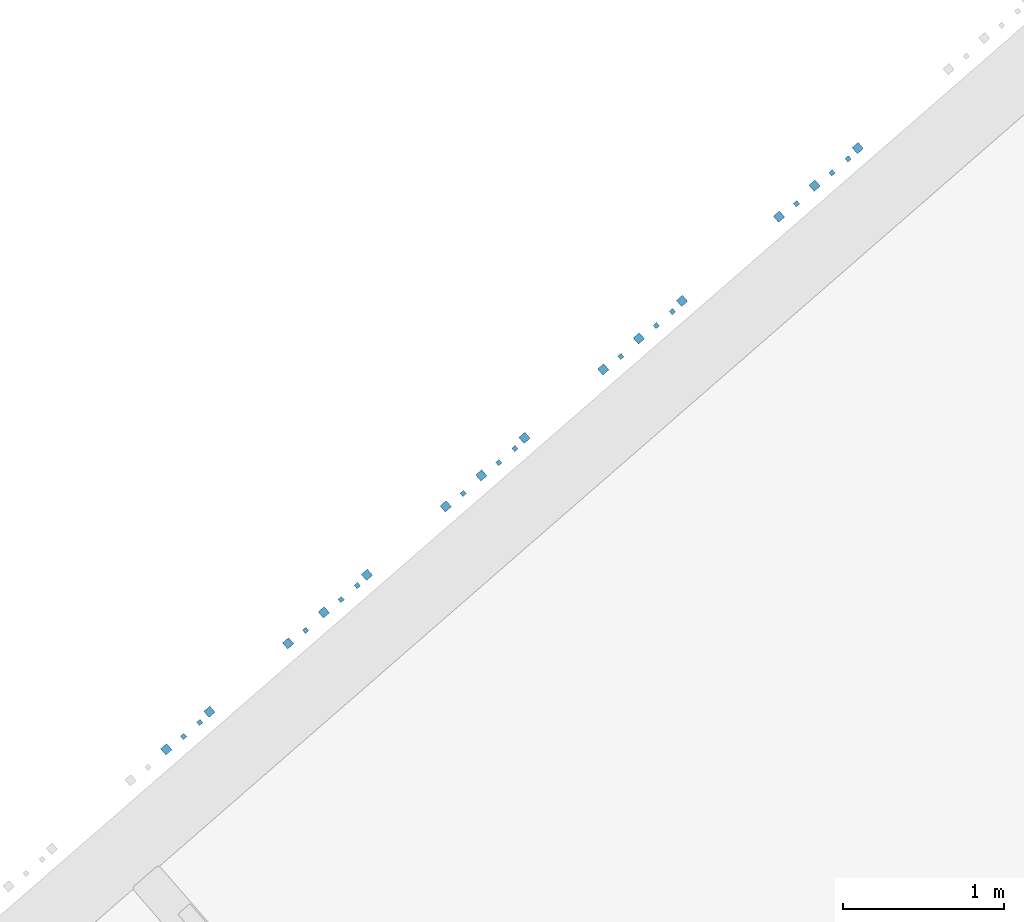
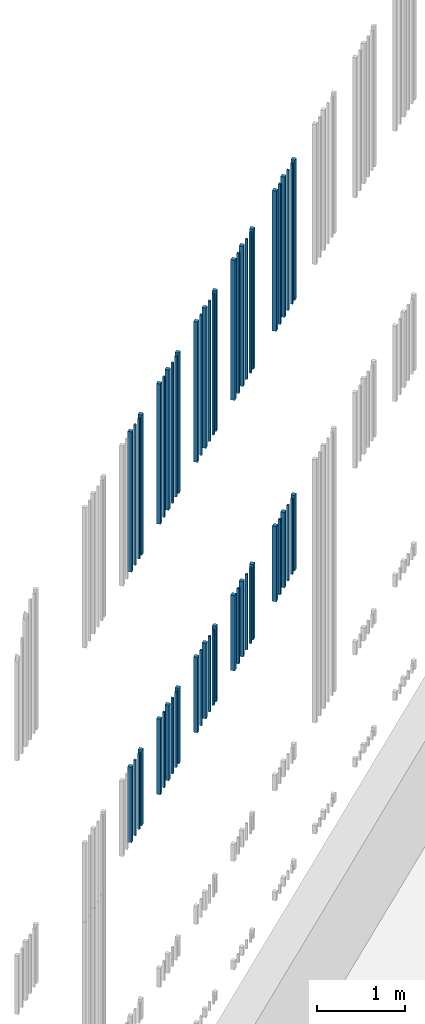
# One storey, part 47 of 124: 56 walls.
"""IFC2X3 building model written with IfcOpenShell, lengths in millimetres."""

from ifc_helpers import new_model, entity, si_unit, converted_unit, derived_unit, money_unit, direction, frame, origin_with_axes, place, context, subcontext, project, spatial, faceted_brep, material, type_object, element, save


model = new_model("IFC2X3")

# Units and contexts
model_context = context("Model", 3, precision=1e-05, world=origin_with_axes(), true_north=direction((0.0, 1.0)))
body_context = subcontext(model_context, "Body", "Model", "MODEL_VIEW")
ifc_project = project(units=[si_unit("LENGTHUNIT", "METRE", prefix="MILLI"), si_unit("AREAUNIT", "SQUARE_METRE"), si_unit("VOLUMEUNIT", "CUBIC_METRE"), converted_unit("PLANEANGLEUNIT", "DEGREE", entity("IfcPlaneAngleMeasure", 0.0174532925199), si_unit("PLANEANGLEUNIT", "RADIAN"), dimensions=[0, 0, 0, 0, 0, 0, 0]), si_unit("SOLIDANGLEUNIT", "STERADIAN"), money_unit("EUR"), converted_unit("TIMEUNIT", "Year", entity("IfcTimeMeasure", 31556926.0), si_unit("TIMEUNIT", "SECOND"), dimensions=[0, 0, 1, 0, 0, 0, 0]), si_unit("MASSUNIT", "GRAM", prefix="KILO"), si_unit("THERMODYNAMICTEMPERATUREUNIT", "DEGREE_CELSIUS"), si_unit("LUMINOUSINTENSITYUNIT", "LUMEN"), si_unit("ENERGYUNIT", "JOULE", prefix="MEGA"), derived_unit("THERMALCONDUCTANCEUNIT", [(si_unit("POWERUNIT", "WATT"), 1), (si_unit("LENGTHUNIT", "METRE"), -1), (si_unit("THERMODYNAMICTEMPERATUREUNIT", "KELVIN"), -1)]), derived_unit("SPECIFICHEATCAPACITYUNIT", [(si_unit("ENERGYUNIT", "JOULE"), 1), (si_unit("MASSUNIT", "GRAM", prefix="KILO"), -1), (si_unit("THERMODYNAMICTEMPERATUREUNIT", "KELVIN"), -1)]), derived_unit("MASSDENSITYUNIT", [(si_unit("MASSUNIT", "GRAM", prefix="KILO"), 1), (si_unit("VOLUMEUNIT", "CUBIC_METRE"), -1)])], contexts=[model_context])

# Site, building, storey
site_placement = place(None, origin_with_axes())
site = spatial("IfcSite", under=ifc_project, at=site_placement, Name="Site", CompositionType="ELEMENT")
building_placement = place(site_placement, origin_with_axes())
building = spatial("IfcBuilding", under=site, at=building_placement, Name="Building", CompositionType="ELEMENT")
storey_placement = place(building_placement, frame((0.0, 0.0, -1615.0), z_axis=(0.0, 0.0, 1.0), x_axis=(1.0, 0.0, 0.0)))
storey = spatial("IfcBuildingStorey", under=building, at=storey_placement, Name="0  korrus", CompositionType="ELEMENT", Elevation=-1615.0)

# Walls
ifc_material = material(Name="Site specified")
wall_type = type_object("IfcWallType", Name="Puitfassaadi ribistik", PredefinedType="NOTDEFINED")
for number, where, z_axis, x_axis, name in (
    (1, (139597.650489, 91372.2268439, 9530.0), (0.0, 0.0, 1.0), (0.754709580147, 0.656059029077, 0.0), "Site specified"),
    (2, (139919.156747, 91651.7079708, 9530.0), (0.0, 0.0, 1.0), (0.754709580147, 0.656059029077, 0.0), "Site specified"),
    (3, (139818.780374, 91564.4521205, 9530.0), (0.0, 0.0, 1.0), (0.754709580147, 0.656059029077, 0.0), "Site specified"),
):
    element("IfcWall", number, at=place(storey_placement, frame(where, z_axis=z_axis, x_axis=x_axis)), inside=storey, type_object=wall_type, material=ifc_material, Name=name, context=body_context, shape_type="Brep", body=[
        faceted_brep([(14.0, 14.0, 1950.0), (14.0, 14.0, 0.0), (-14.0, 14.0, 0.0), (-14.0, 14.0, 1950.0), (14.0, -14.0, 1950.0), (14.0, -14.0, 0.0), (-14.0, -14.0, 0.0), (-14.0, -14.0, 1950.0)], [[[0, 1, 2, 3]], [[4, 5, 1, 0]], [[2, 1, 5, 6]], [[3, 2, 6, 7]], [[4, 0, 3, 7]], [[7, 6, 5, 4]]]),
    ])
for number, where, z_axis, x_axis, name in (
    (4, (139979.111643, 91718.4011098, 9530.0), (0.0, 0.0, 1.0), (0.754709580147, 0.656059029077, 0.0), "Site specified"),
    (5, (139710.430781, 91484.8403996, 9530.0), (0.0, 0.0, 1.0), (0.754709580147, 0.656059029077, 0.0), "Site specified"),
):
    element("IfcWall", number, at=place(storey_placement, frame(where, z_axis=z_axis, x_axis=x_axis)), inside=storey, type_object=wall_type, material=ifc_material, Name=name, context=body_context, shape_type="Brep", body=[
        faceted_brep([(25.0, 25.0, 1950.0), (25.0, 25.0, 0.0), (-25.0, 25.0, 0.0), (-25.0, 25.0, 1950.0), (25.0, -25.0, 1950.0), (25.0, -25.0, 0.0), (-25.0, -25.0, 0.0), (-25.0, -25.0, 1950.0)], [[[0, 1, 2, 3]], [[4, 5, 1, 0]], [[2, 1, 5, 6]], [[3, 2, 6, 7]], [[4, 0, 3, 7]], [[7, 6, 5, 4]]]),
    ])
wall_1_placement = place(storey_placement, frame((138837.657922, 90711.5753852, 5771.0), z_axis=(0.0, 0.0, 1.0), x_axis=(0.754709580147, 0.656059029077, 0.0)))
element("IfcWall", 6, at=wall_1_placement, inside=storey, type_object=wall_type, material=ifc_material, Name="Site specified", context=body_context, shape_type="Brep", body=[
    faceted_brep([(14.0, 14.0, 1050.0), (14.0, 14.0, 0.0), (-14.0, 14.0, 0.0), (-14.0, 14.0, 1050.0), (14.0, -14.0, 1050.0), (14.0, -14.0, 0.0), (-14.0, -14.0, 0.0), (-14.0, -14.0, 1050.0)], [[[0, 1, 2, 3]], [[4, 5, 1, 0]], [[2, 1, 5, 6]], [[3, 2, 6, 7]], [[4, 0, 3, 7]], [[7, 6, 5, 4]]]),
])
for number, where, z_axis, x_axis, name in (
    (7, (138997.989192, 90865.5243744, 5771.0), (0.0, 0.0, 1.0), (0.754709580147, 0.656059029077, 0.0), "Site specified"),
    (8, (138729.30833, 90631.9636643, 5771.0), (0.0, 0.0, 1.0), (0.754709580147, 0.656059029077, 0.0), "Site specified"),
):
    element("IfcWall", number, at=place(storey_placement, frame(where, z_axis=z_axis, x_axis=x_axis)), inside=storey, type_object=wall_type, material=ifc_material, Name=name, context=body_context, shape_type="Brep", body=[
        faceted_brep([(25.0, 25.0, 1050.0), (25.0, 25.0, 0.0), (-25.0, 25.0, 0.0), (-25.0, 25.0, 1050.0), (25.0, -25.0, 1050.0), (25.0, -25.0, 0.0), (-25.0, -25.0, 0.0), (-25.0, -25.0, 1050.0)], [[[0, 1, 2, 3]], [[4, 5, 1, 0]], [[2, 1, 5, 6]], [[3, 2, 6, 7]], [[4, 0, 3, 7]], [[7, 6, 5, 4]]]),
    ])
for number, where, z_axis, x_axis, name in (
    (9, (138938.034296, 90798.8312355, 5771.0), (0.0, 0.0, 1.0), (0.754709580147, 0.656059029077, 0.0), "Site specified"),
    (10, (139818.780374, 91564.4521205, 5771.0), (0.0, 0.0, 1.0), (0.754709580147, 0.656059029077, 0.0), "Site specified"),
):
    element("IfcWall", number, at=place(storey_placement, frame(where, z_axis=z_axis, x_axis=x_axis)), inside=storey, type_object=wall_type, material=ifc_material, Name=name, context=body_context, shape_type="Brep", body=[
        faceted_brep([(14.0, 14.0, 1050.0), (14.0, 14.0, 0.0), (-14.0, 14.0, 0.0), (-14.0, 14.0, 1050.0), (14.0, -14.0, 1050.0), (14.0, -14.0, 0.0), (-14.0, -14.0, 0.0), (-14.0, -14.0, 1050.0)], [[[0, 1, 2, 3]], [[4, 5, 1, 0]], [[2, 1, 5, 6]], [[3, 2, 6, 7]], [[4, 0, 3, 7]], [[7, 6, 5, 4]]]),
    ])
for number, where, z_axis, x_axis, name in (
    (11, (138729.30833, 90631.9636643, 9530.0), (0.0, 0.0, 1.0), (0.754709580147, 0.656059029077, 0.0), "Site specified"),
    (12, (139488.546166, 91291.9590465, 9530.0), (0.0, 0.0, 1.0), (0.754709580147, 0.656059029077, 0.0), "Site specified"),
):
    element("IfcWall", number, at=place(storey_placement, frame(where, z_axis=z_axis, x_axis=x_axis)), inside=storey, type_object=wall_type, material=ifc_material, Name=name, context=body_context, shape_type="Brep", body=[
        faceted_brep([(25.0, 25.0, 1950.0), (25.0, 25.0, 0.0), (-25.0, 25.0, 0.0), (-25.0, 25.0, 1950.0), (25.0, -25.0, 1950.0), (25.0, -25.0, 0.0), (-25.0, -25.0, 0.0), (-25.0, -25.0, 1950.0)], [[[0, 1, 2, 3]], [[4, 5, 1, 0]], [[2, 1, 5, 6]], [[3, 2, 6, 7]], [[4, 0, 3, 7]], [[7, 6, 5, 4]]]),
    ])
for number, where, z_axis, x_axis, name in (
    (13, (139979.111643, 91718.4011098, 5771.0), (0.0, 0.0, 1.0), (0.754709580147, 0.656059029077, 0.0), "Site specified"),
    (14, (139488.546166, 91291.9590465, 5771.0), (0.0, 0.0, 1.0), (0.754709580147, 0.656059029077, 0.0), "Site specified"),
):
    element("IfcWall", number, at=place(storey_placement, frame(where, z_axis=z_axis, x_axis=x_axis)), inside=storey, type_object=wall_type, material=ifc_material, Name=name, context=body_context, shape_type="Brep", body=[
        faceted_brep([(25.0, 25.0, 1050.0), (25.0, 25.0, 0.0), (-25.0, 25.0, 0.0), (-25.0, 25.0, 1050.0), (25.0, -25.0, 1050.0), (25.0, -25.0, 0.0), (-25.0, -25.0, 0.0), (-25.0, -25.0, 1050.0)], [[[0, 1, 2, 3]], [[4, 5, 1, 0]], [[2, 1, 5, 6]], [[3, 2, 6, 7]], [[4, 0, 3, 7]], [[7, 6, 5, 4]]]),
    ])
wall_2_placement = place(storey_placement, frame((139597.650489, 91372.2268439, 5771.0), z_axis=(0.0, 0.0, 1.0), x_axis=(0.754709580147, 0.656059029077, 0.0)))
element("IfcWall", 15, at=wall_2_placement, inside=storey, type_object=wall_type, material=ifc_material, Name="Site specified", context=body_context, shape_type="Brep", body=[
    faceted_brep([(14.0, 14.0, 1050.0), (14.0, 14.0, 0.0), (-14.0, 14.0, 0.0), (-14.0, 14.0, 1050.0), (14.0, -14.0, 1050.0), (14.0, -14.0, 0.0), (-14.0, -14.0, 0.0), (-14.0, -14.0, 1050.0)], [[[0, 1, 2, 3]], [[4, 5, 1, 0]], [[2, 1, 5, 6]], [[3, 2, 6, 7]], [[4, 0, 3, 7]], [[7, 6, 5, 4]]]),
])
wall_3_placement = place(storey_placement, frame((138997.989192, 90865.5243744, 9530.0), z_axis=(0.0, 0.0, 1.0), x_axis=(0.754709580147, 0.656059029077, 0.0)))
element("IfcWall", 16, at=wall_3_placement, inside=storey, type_object=wall_type, material=ifc_material, Name="Site specified", context=body_context, shape_type="Brep", body=[
    faceted_brep([(25.0, 25.0, 1950.0), (25.0, 25.0, 0.0), (-25.0, 25.0, 0.0), (-25.0, 25.0, 1950.0), (25.0, -25.0, 1950.0), (25.0, -25.0, 0.0), (-25.0, -25.0, 0.0), (-25.0, -25.0, 1950.0)], [[[0, 1, 2, 3]], [[4, 5, 1, 0]], [[2, 1, 5, 6]], [[3, 2, 6, 7]], [[4, 0, 3, 7]], [[7, 6, 5, 4]]]),
])
for number, where, z_axis, x_axis, name in (
    (17, (138938.034296, 90798.8312355, 9530.0), (0.0, 0.0, 1.0), (0.754709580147, 0.656059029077, 0.0), "Site specified"),
    (18, (138837.657922, 90711.5753852, 9530.0), (0.0, 0.0, 1.0), (0.754709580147, 0.656059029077, 0.0), "Site specified"),
):
    element("IfcWall", number, at=place(storey_placement, frame(where, z_axis=z_axis, x_axis=x_axis)), inside=storey, type_object=wall_type, material=ifc_material, Name=name, context=body_context, shape_type="Brep", body=[
        faceted_brep([(14.0, 14.0, 1950.0), (14.0, 14.0, 0.0), (-14.0, 14.0, 0.0), (-14.0, 14.0, 1950.0), (14.0, -14.0, 1950.0), (14.0, -14.0, 0.0), (-14.0, -14.0, 0.0), (-14.0, -14.0, 1950.0)], [[[0, 1, 2, 3]], [[4, 5, 1, 0]], [[2, 1, 5, 6]], [[3, 2, 6, 7]], [[4, 0, 3, 7]], [[7, 6, 5, 4]]]),
    ])
wall_4_placement = place(storey_placement, frame((140900.279204, 92504.5847111, 5771.0), z_axis=(0.0, 0.0, 1.0), x_axis=(0.754709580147, 0.656059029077, 0.0)))
element("IfcWall", 19, at=wall_4_placement, inside=storey, type_object=wall_type, material=ifc_material, Name="Site specified", context=body_context, shape_type="Brep", body=[
    faceted_brep([(14.0, 14.0, 1050.0), (14.0, 14.0, 0.0), (-14.0, 14.0, 0.0), (-14.0, 14.0, 1050.0), (14.0, -14.0, 1050.0), (14.0, -14.0, 0.0), (-14.0, -14.0, 0.0), (-14.0, -14.0, 1050.0)], [[[0, 1, 2, 3]], [[4, 5, 1, 0]], [[2, 1, 5, 6]], [[3, 2, 6, 7]], [[4, 0, 3, 7]], [[7, 6, 5, 4]]]),
])
wall_5_placement = place(storey_placement, frame((140469.668623, 92144.8357868, 5771.0), z_axis=(0.0, 0.0, 1.0), x_axis=(0.754709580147, 0.656059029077, 0.0)))
element("IfcWall", 20, at=wall_5_placement, inside=storey, type_object=wall_type, material=ifc_material, Name="Site specified", context=body_context, shape_type="Brep", body=[
    faceted_brep([(25.0, 25.0, 1050.0), (25.0, 25.0, 0.0), (-25.0, 25.0, 0.0), (-25.0, 25.0, 1050.0), (25.0, -25.0, 1050.0), (25.0, -25.0, 0.0), (-25.0, -25.0, 0.0), (-25.0, -25.0, 1050.0)], [[[0, 1, 2, 3]], [[4, 5, 1, 0]], [[2, 1, 5, 6]], [[3, 2, 6, 7]], [[4, 0, 3, 7]], [[7, 6, 5, 4]]]),
])
for number, where, z_axis, x_axis, name in (
    (21, (140578.772946, 92225.1035843, 5771.0), (0.0, 0.0, 1.0), (0.754709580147, 0.656059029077, 0.0), "Site specified"),
    (22, (139919.156747, 91651.7079708, 5771.0), (0.0, 0.0, 1.0), (0.754709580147, 0.656059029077, 0.0), "Site specified"),
):
    element("IfcWall", number, at=place(storey_placement, frame(where, z_axis=z_axis, x_axis=x_axis)), inside=storey, type_object=wall_type, material=ifc_material, Name=name, context=body_context, shape_type="Brep", body=[
        faceted_brep([(14.0, 14.0, 1050.0), (14.0, 14.0, 0.0), (-14.0, 14.0, 0.0), (-14.0, 14.0, 1050.0), (14.0, -14.0, 1050.0), (14.0, -14.0, 0.0), (-14.0, -14.0, 0.0), (-14.0, -14.0, 1050.0)], [[[0, 1, 2, 3]], [[4, 5, 1, 0]], [[2, 1, 5, 6]], [[3, 2, 6, 7]], [[4, 0, 3, 7]], [[7, 6, 5, 4]]]),
    ])
wall_6_placement = place(storey_placement, frame((139710.430781, 91484.8403996, 5771.0), z_axis=(0.0, 0.0, 1.0), x_axis=(0.754709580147, 0.656059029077, 0.0)))
element("IfcWall", 23, at=wall_6_placement, inside=storey, type_object=wall_type, material=ifc_material, Name="Site specified", context=body_context, shape_type="Brep", body=[
    faceted_brep([(25.0, 25.0, 1050.0), (25.0, 25.0, 0.0), (-25.0, 25.0, 0.0), (-25.0, 25.0, 1050.0), (25.0, -25.0, 1050.0), (25.0, -25.0, 0.0), (-25.0, -25.0, 0.0), (-25.0, -25.0, 1050.0)], [[[0, 1, 2, 3]], [[4, 5, 1, 0]], [[2, 1, 5, 6]], [[3, 2, 6, 7]], [[4, 0, 3, 7]], [[7, 6, 5, 4]]]),
])
wall_7_placement = place(storey_placement, frame((140799.902831, 92417.3288608, 5771.0), z_axis=(0.0, 0.0, 1.0), x_axis=(0.754709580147, 0.656059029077, 0.0)))
element("IfcWall", 24, at=wall_7_placement, inside=storey, type_object=wall_type, material=ifc_material, Name="Site specified", context=body_context, shape_type="Brep", body=[
    faceted_brep([(14.0, 14.0, 1050.0), (14.0, 14.0, 0.0), (-14.0, 14.0, 0.0), (-14.0, 14.0, 1050.0), (14.0, -14.0, 1050.0), (14.0, -14.0, 0.0), (-14.0, -14.0, 0.0), (-14.0, -14.0, 1050.0)], [[[0, 1, 2, 3]], [[4, 5, 1, 0]], [[2, 1, 5, 6]], [[3, 2, 6, 7]], [[4, 0, 3, 7]], [[7, 6, 5, 4]]]),
])
for number, where, z_axis, x_axis, name in (
    (25, (140960.2341, 92571.2778501, 5771.0), (0.0, 0.0, 1.0), (0.754709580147, 0.656059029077, 0.0), "Site specified"),
    (26, (140691.553238, 92337.7171399, 5771.0), (0.0, 0.0, 1.0), (0.754709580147, 0.656059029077, 0.0), "Site specified"),
):
    element("IfcWall", number, at=place(storey_placement, frame(where, z_axis=z_axis, x_axis=x_axis)), inside=storey, type_object=wall_type, material=ifc_material, Name=name, context=body_context, shape_type="Brep", body=[
        faceted_brep([(25.0, 25.0, 1050.0), (25.0, 25.0, 0.0), (-25.0, 25.0, 0.0), (-25.0, 25.0, 1050.0), (25.0, -25.0, 1050.0), (25.0, -25.0, 0.0), (-25.0, -25.0, 0.0), (-25.0, -25.0, 1050.0)], [[[0, 1, 2, 3]], [[4, 5, 1, 0]], [[2, 1, 5, 6]], [[3, 2, 6, 7]], [[4, 0, 3, 7]], [[7, 6, 5, 4]]]),
    ])
wall_8_placement = place(storey_placement, frame((140469.668623, 92144.8357868, 9530.0), z_axis=(0.0, 0.0, 1.0), x_axis=(0.754709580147, 0.656059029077, 0.0)))
element("IfcWall", 27, at=wall_8_placement, inside=storey, type_object=wall_type, material=ifc_material, Name="Site specified", context=body_context, shape_type="Brep", body=[
    faceted_brep([(25.0, 25.0, 1950.0), (25.0, 25.0, 0.0), (-25.0, 25.0, 0.0), (-25.0, 25.0, 1950.0), (25.0, -25.0, 1950.0), (25.0, -25.0, 0.0), (-25.0, -25.0, 0.0), (-25.0, -25.0, 1950.0)], [[[0, 1, 2, 3]], [[4, 5, 1, 0]], [[2, 1, 5, 6]], [[3, 2, 6, 7]], [[4, 0, 3, 7]], [[7, 6, 5, 4]]]),
])
for number, where, z_axis, x_axis, name in (
    (28, (140578.772946, 92225.1035843, 9530.0), (0.0, 0.0, 1.0), (0.754709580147, 0.656059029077, 0.0), "Site specified"),
    (29, (140900.279204, 92504.5847111, 9530.0), (0.0, 0.0, 1.0), (0.754709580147, 0.656059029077, 0.0), "Site specified"),
    (30, (140799.902831, 92417.3288608, 9530.0), (0.0, 0.0, 1.0), (0.754709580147, 0.656059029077, 0.0), "Site specified"),
):
    element("IfcWall", number, at=place(storey_placement, frame(where, z_axis=z_axis, x_axis=x_axis)), inside=storey, type_object=wall_type, material=ifc_material, Name=name, context=body_context, shape_type="Brep", body=[
        faceted_brep([(14.0, 14.0, 1950.0), (14.0, 14.0, 0.0), (-14.0, 14.0, 0.0), (-14.0, 14.0, 1950.0), (14.0, -14.0, 1950.0), (14.0, -14.0, 0.0), (-14.0, -14.0, 0.0), (-14.0, -14.0, 1950.0)], [[[0, 1, 2, 3]], [[4, 5, 1, 0]], [[2, 1, 5, 6]], [[3, 2, 6, 7]], [[4, 0, 3, 7]], [[7, 6, 5, 4]]]),
    ])
for number, where, z_axis, x_axis, name in (
    (31, (140960.2341, 92571.2778501, 9530.0), (0.0, 0.0, 1.0), (0.754709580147, 0.656059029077, 0.0), "Site specified"),
    (32, (140691.553238, 92337.7171399, 9530.0), (0.0, 0.0, 1.0), (0.754709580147, 0.656059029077, 0.0), "Site specified"),
):
    element("IfcWall", number, at=place(storey_placement, frame(where, z_axis=z_axis, x_axis=x_axis)), inside=storey, type_object=wall_type, material=ifc_material, Name=name, context=body_context, shape_type="Brep", body=[
        faceted_brep([(25.0, 25.0, 1950.0), (25.0, 25.0, 0.0), (-25.0, 25.0, 0.0), (-25.0, 25.0, 1950.0), (25.0, -25.0, 1950.0), (25.0, -25.0, 0.0), (-25.0, -25.0, 0.0), (-25.0, -25.0, 1950.0)], [[[0, 1, 2, 3]], [[4, 5, 1, 0]], [[2, 1, 5, 6]], [[3, 2, 6, 7]], [[4, 0, 3, 7]], [[7, 6, 5, 4]]]),
    ])
wall_9_placement = place(storey_placement, frame((141781.02504, 93270.2053854, 5771.0), z_axis=(0.0, 0.0, 1.0), x_axis=(0.754709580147, 0.656059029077, 0.0)))
element("IfcWall", 33, at=wall_9_placement, inside=storey, type_object=wall_type, material=ifc_material, Name="Site specified", context=body_context, shape_type="Brep", body=[
    faceted_brep([(14.0, 14.0, 1050.0), (14.0, 14.0, 0.0), (-14.0, 14.0, 0.0), (-14.0, 14.0, 1050.0), (14.0, -14.0, 1050.0), (14.0, -14.0, 0.0), (-14.0, -14.0, 0.0), (-14.0, -14.0, 1050.0)], [[[0, 1, 2, 3]], [[4, 5, 1, 0]], [[2, 1, 5, 6]], [[3, 2, 6, 7]], [[4, 0, 3, 7]], [[7, 6, 5, 4]]]),
])
wall_10_placement = place(storey_placement, frame((141450.790832, 92997.7123114, 5771.0), z_axis=(0.0, 0.0, 1.0), x_axis=(0.754709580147, 0.656059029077, 0.0)))
element("IfcWall", 34, at=wall_10_placement, inside=storey, type_object=wall_type, material=ifc_material, Name="Site specified", context=body_context, shape_type="Brep", body=[
    faceted_brep([(25.0, 25.0, 1050.0), (25.0, 25.0, 0.0), (-25.0, 25.0, 0.0), (-25.0, 25.0, 1050.0), (25.0, -25.0, 1050.0), (25.0, -25.0, 0.0), (-25.0, -25.0, 0.0), (-25.0, -25.0, 1050.0)], [[[0, 1, 2, 3]], [[4, 5, 1, 0]], [[2, 1, 5, 6]], [[3, 2, 6, 7]], [[4, 0, 3, 7]], [[7, 6, 5, 4]]]),
])
for number, where, z_axis, x_axis, name in (
    (35, (141559.895155, 93077.9801088, 5771.0), (0.0, 0.0, 1.0), (0.754709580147, 0.656059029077, 0.0), "Site specified"),
    (36, (141881.401413, 93357.4612357, 5771.0), (0.0, 0.0, 1.0), (0.754709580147, 0.656059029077, 0.0), "Site specified"),
):
    element("IfcWall", number, at=place(storey_placement, frame(where, z_axis=z_axis, x_axis=x_axis)), inside=storey, type_object=wall_type, material=ifc_material, Name=name, context=body_context, shape_type="Brep", body=[
        faceted_brep([(14.0, 14.0, 1050.0), (14.0, 14.0, 0.0), (-14.0, 14.0, 0.0), (-14.0, 14.0, 1050.0), (14.0, -14.0, 1050.0), (14.0, -14.0, 0.0), (-14.0, -14.0, 0.0), (-14.0, -14.0, 1050.0)], [[[0, 1, 2, 3]], [[4, 5, 1, 0]], [[2, 1, 5, 6]], [[3, 2, 6, 7]], [[4, 0, 3, 7]], [[7, 6, 5, 4]]]),
    ])
wall_11_placement = place(storey_placement, frame((141941.356309, 93424.1543746, 5771.0), z_axis=(0.0, 0.0, 1.0), x_axis=(0.754709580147, 0.656059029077, 0.0)))
element("IfcWall", 37, at=wall_11_placement, inside=storey, type_object=wall_type, material=ifc_material, Name="Site specified", context=body_context, shape_type="Brep", body=[
    faceted_brep([(25.0, 25.0, 1050.0), (25.0, 25.0, 0.0), (-25.0, 25.0, 0.0), (-25.0, 25.0, 1050.0), (25.0, -25.0, 1050.0), (25.0, -25.0, 0.0), (-25.0, -25.0, 0.0), (-25.0, -25.0, 1050.0)], [[[0, 1, 2, 3]], [[4, 5, 1, 0]], [[2, 1, 5, 6]], [[3, 2, 6, 7]], [[4, 0, 3, 7]], [[7, 6, 5, 4]]]),
])
wall_12_placement = place(storey_placement, frame((141941.356309, 93424.1543746, 9530.0), z_axis=(0.0, 0.0, 1.0), x_axis=(0.754709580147, 0.656059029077, 0.0)))
element("IfcWall", 38, at=wall_12_placement, inside=storey, type_object=wall_type, material=ifc_material, Name="Site specified", context=body_context, shape_type="Brep", body=[
    faceted_brep([(25.0, 25.0, 1950.0), (25.0, 25.0, 0.0), (-25.0, 25.0, 0.0), (-25.0, 25.0, 1950.0), (25.0, -25.0, 1950.0), (25.0, -25.0, 0.0), (-25.0, -25.0, 0.0), (-25.0, -25.0, 1950.0)], [[[0, 1, 2, 3]], [[4, 5, 1, 0]], [[2, 1, 5, 6]], [[3, 2, 6, 7]], [[4, 0, 3, 7]], [[7, 6, 5, 4]]]),
])
wall_13_placement = place(storey_placement, frame((141672.675447, 93190.5936645, 5771.0), z_axis=(0.0, 0.0, 1.0), x_axis=(0.754709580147, 0.656059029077, 0.0)))
element("IfcWall", 39, at=wall_13_placement, inside=storey, type_object=wall_type, material=ifc_material, Name="Site specified", context=body_context, shape_type="Brep", body=[
    faceted_brep([(25.0, 25.0, 1050.0), (25.0, 25.0, 0.0), (-25.0, 25.0, 0.0), (-25.0, 25.0, 1050.0), (25.0, -25.0, 1050.0), (25.0, -25.0, 0.0), (-25.0, -25.0, 0.0), (-25.0, -25.0, 1050.0)], [[[0, 1, 2, 3]], [[4, 5, 1, 0]], [[2, 1, 5, 6]], [[3, 2, 6, 7]], [[4, 0, 3, 7]], [[7, 6, 5, 4]]]),
])
wall_14_placement = place(storey_placement, frame((141450.790832, 92997.7123114, 9530.0), z_axis=(0.0, 0.0, 1.0), x_axis=(0.754709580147, 0.656059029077, 0.0)))
element("IfcWall", 40, at=wall_14_placement, inside=storey, type_object=wall_type, material=ifc_material, Name="Site specified", context=body_context, shape_type="Brep", body=[
    faceted_brep([(25.0, 25.0, 1950.0), (25.0, 25.0, 0.0), (-25.0, 25.0, 0.0), (-25.0, 25.0, 1950.0), (25.0, -25.0, 1950.0), (25.0, -25.0, 0.0), (-25.0, -25.0, 0.0), (-25.0, -25.0, 1950.0)], [[[0, 1, 2, 3]], [[4, 5, 1, 0]], [[2, 1, 5, 6]], [[3, 2, 6, 7]], [[4, 0, 3, 7]], [[7, 6, 5, 4]]]),
])
for number, where, z_axis, x_axis, name in (
    (41, (141559.895155, 93077.9801088, 9530.0), (0.0, 0.0, 1.0), (0.754709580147, 0.656059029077, 0.0), "Site specified"),
    (42, (141881.401413, 93357.4612357, 9530.0), (0.0, 0.0, 1.0), (0.754709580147, 0.656059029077, 0.0), "Site specified"),
    (43, (141781.02504, 93270.2053854, 9530.0), (0.0, 0.0, 1.0), (0.754709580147, 0.656059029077, 0.0), "Site specified"),
):
    element("IfcWall", number, at=place(storey_placement, frame(where, z_axis=z_axis, x_axis=x_axis)), inside=storey, type_object=wall_type, material=ifc_material, Name=name, context=body_context, shape_type="Brep", body=[
        faceted_brep([(14.0, 14.0, 1950.0), (14.0, 14.0, 0.0), (-14.0, 14.0, 0.0), (-14.0, 14.0, 1950.0), (14.0, -14.0, 1950.0), (14.0, -14.0, 0.0), (-14.0, -14.0, 0.0), (-14.0, -14.0, 1950.0)], [[[0, 1, 2, 3]], [[4, 5, 1, 0]], [[2, 1, 5, 6]], [[3, 2, 6, 7]], [[4, 0, 3, 7]], [[7, 6, 5, 4]]]),
    ])
wall_15_placement = place(storey_placement, frame((141672.675447, 93190.5936645, 9530.0), z_axis=(0.0, 0.0, 1.0), x_axis=(0.754709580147, 0.656059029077, 0.0)))
element("IfcWall", 44, at=wall_15_placement, inside=storey, type_object=wall_type, material=ifc_material, Name="Site specified", context=body_context, shape_type="Brep", body=[
    faceted_brep([(25.0, 25.0, 1950.0), (25.0, 25.0, 0.0), (-25.0, 25.0, 0.0), (-25.0, 25.0, 1950.0), (25.0, -25.0, 1950.0), (25.0, -25.0, 0.0), (-25.0, -25.0, 0.0), (-25.0, -25.0, 1950.0)], [[[0, 1, 2, 3]], [[4, 5, 1, 0]], [[2, 1, 5, 6]], [[3, 2, 6, 7]], [[4, 0, 3, 7]], [[7, 6, 5, 4]]]),
])
wall_16_placement = place(storey_placement, frame((142545.119969, 93948.9981168, 5771.0), z_axis=(0.0, 0.0, 1.0), x_axis=(0.754709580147, 0.656059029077, 0.0)))
element("IfcWall", 45, at=wall_16_placement, inside=storey, type_object=wall_type, material=ifc_material, Name="Site specified", context=body_context, shape_type="Brep", body=[
    faceted_brep([(25.0, 25.0, 1050.0), (25.0, 25.0, 0.0), (-25.0, 25.0, 0.0), (-25.0, 25.0, 1050.0), (25.0, -25.0, 1050.0), (25.0, -25.0, 0.0), (-25.0, -25.0, 0.0), (-25.0, -25.0, 1050.0)], [[[0, 1, 2, 3]], [[4, 5, 1, 0]], [[2, 1, 5, 6]], [[3, 2, 6, 7]], [[4, 0, 3, 7]], [[7, 6, 5, 4]]]),
])
wall_17_placement = place(storey_placement, frame((142654.224291, 94029.2659142, 5771.0), z_axis=(0.0, 0.0, 1.0), x_axis=(0.754709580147, 0.656059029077, 0.0)))
element("IfcWall", 46, at=wall_17_placement, inside=storey, type_object=wall_type, material=ifc_material, Name="Site specified", context=body_context, shape_type="Brep", body=[
    faceted_brep([(14.0, 14.0, 1050.0), (14.0, 14.0, 0.0), (-14.0, 14.0, 0.0), (-14.0, 14.0, 1050.0), (14.0, -14.0, 1050.0), (14.0, -14.0, 0.0), (-14.0, -14.0, 0.0), (-14.0, -14.0, 1050.0)], [[[0, 1, 2, 3]], [[4, 5, 1, 0]], [[2, 1, 5, 6]], [[3, 2, 6, 7]], [[4, 0, 3, 7]], [[7, 6, 5, 4]]]),
])
wall_18_placement = place(storey_placement, frame((142654.224291, 94029.2659142, 9530.0), z_axis=(0.0, 0.0, 1.0), x_axis=(0.754709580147, 0.656059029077, 0.0)))
element("IfcWall", 47, at=wall_18_placement, inside=storey, type_object=wall_type, material=ifc_material, Name="Site specified", context=body_context, shape_type="Brep", body=[
    faceted_brep([(14.0, 14.0, 1950.0), (14.0, 14.0, 0.0), (-14.0, 14.0, 0.0), (-14.0, 14.0, 1950.0), (14.0, -14.0, 1950.0), (14.0, -14.0, 0.0), (-14.0, -14.0, 0.0), (-14.0, -14.0, 1950.0)], [[[0, 1, 2, 3]], [[4, 5, 1, 0]], [[2, 1, 5, 6]], [[3, 2, 6, 7]], [[4, 0, 3, 7]], [[7, 6, 5, 4]]]),
])
for number, where, z_axis, x_axis, name in (
    (48, (142975.73055, 94308.7470411, 5771.0), (0.0, 0.0, 1.0), (0.754709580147, 0.656059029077, 0.0), "Site specified"),
    (49, (142875.354176, 94221.4911908, 5771.0), (0.0, 0.0, 1.0), (0.754709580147, 0.656059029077, 0.0), "Site specified"),
):
    element("IfcWall", number, at=place(storey_placement, frame(where, z_axis=z_axis, x_axis=x_axis)), inside=storey, type_object=wall_type, material=ifc_material, Name=name, context=body_context, shape_type="Brep", body=[
        faceted_brep([(14.0, 14.0, 1050.0), (14.0, 14.0, 0.0), (-14.0, 14.0, 0.0), (-14.0, 14.0, 1050.0), (14.0, -14.0, 1050.0), (14.0, -14.0, 0.0), (-14.0, -14.0, 0.0), (-14.0, -14.0, 1050.0)], [[[0, 1, 2, 3]], [[4, 5, 1, 0]], [[2, 1, 5, 6]], [[3, 2, 6, 7]], [[4, 0, 3, 7]], [[7, 6, 5, 4]]]),
    ])
for number, where, z_axis, x_axis, name in (
    (50, (143035.685446, 94375.4401801, 5771.0), (0.0, 0.0, 1.0), (0.754709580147, 0.656059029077, 0.0), "Site specified"),
    (51, (142767.004584, 94141.8794699, 5771.0), (0.0, 0.0, 1.0), (0.754709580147, 0.656059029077, 0.0), "Site specified"),
):
    element("IfcWall", number, at=place(storey_placement, frame(where, z_axis=z_axis, x_axis=x_axis)), inside=storey, type_object=wall_type, material=ifc_material, Name=name, context=body_context, shape_type="Brep", body=[
        faceted_brep([(25.0, 25.0, 1050.0), (25.0, 25.0, 0.0), (-25.0, 25.0, 0.0), (-25.0, 25.0, 1050.0), (25.0, -25.0, 1050.0), (25.0, -25.0, 0.0), (-25.0, -25.0, 0.0), (-25.0, -25.0, 1050.0)], [[[0, 1, 2, 3]], [[4, 5, 1, 0]], [[2, 1, 5, 6]], [[3, 2, 6, 7]], [[4, 0, 3, 7]], [[7, 6, 5, 4]]]),
    ])
wall_19_placement = place(storey_placement, frame((142545.119969, 93948.9981168, 9530.0), z_axis=(0.0, 0.0, 1.0), x_axis=(0.754709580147, 0.656059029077, 0.0)))
element("IfcWall", 52, at=wall_19_placement, inside=storey, type_object=wall_type, material=ifc_material, Name="Site specified", context=body_context, shape_type="Brep", body=[
    faceted_brep([(25.0, 25.0, 1950.0), (25.0, 25.0, 0.0), (-25.0, 25.0, 0.0), (-25.0, 25.0, 1950.0), (25.0, -25.0, 1950.0), (25.0, -25.0, 0.0), (-25.0, -25.0, 0.0), (-25.0, -25.0, 1950.0)], [[[0, 1, 2, 3]], [[4, 5, 1, 0]], [[2, 1, 5, 6]], [[3, 2, 6, 7]], [[4, 0, 3, 7]], [[7, 6, 5, 4]]]),
])
for number, where, z_axis, x_axis, name in (
    (53, (142975.73055, 94308.7470411, 9530.0), (0.0, 0.0, 1.0), (0.754709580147, 0.656059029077, 0.0), "Site specified"),
    (54, (142875.354176, 94221.4911908, 9530.0), (0.0, 0.0, 1.0), (0.754709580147, 0.656059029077, 0.0), "Site specified"),
):
    element("IfcWall", number, at=place(storey_placement, frame(where, z_axis=z_axis, x_axis=x_axis)), inside=storey, type_object=wall_type, material=ifc_material, Name=name, context=body_context, shape_type="Brep", body=[
        faceted_brep([(14.0, 14.0, 1950.0), (14.0, 14.0, 0.0), (-14.0, 14.0, 0.0), (-14.0, 14.0, 1950.0), (14.0, -14.0, 1950.0), (14.0, -14.0, 0.0), (-14.0, -14.0, 0.0), (-14.0, -14.0, 1950.0)], [[[0, 1, 2, 3]], [[4, 5, 1, 0]], [[2, 1, 5, 6]], [[3, 2, 6, 7]], [[4, 0, 3, 7]], [[7, 6, 5, 4]]]),
    ])
for number, where, z_axis, x_axis, name in (
    (55, (143035.685446, 94375.4401801, 9530.0), (0.0, 0.0, 1.0), (0.754709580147, 0.656059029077, 0.0), "Site specified"),
    (56, (142767.004584, 94141.8794699, 9530.0), (0.0, 0.0, 1.0), (0.754709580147, 0.656059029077, 0.0), "Site specified"),
):
    element("IfcWall", number, at=place(storey_placement, frame(where, z_axis=z_axis, x_axis=x_axis)), inside=storey, type_object=wall_type, material=ifc_material, Name=name, context=body_context, shape_type="Brep", body=[
        faceted_brep([(25.0, 25.0, 1950.0), (25.0, 25.0, 0.0), (-25.0, 25.0, 0.0), (-25.0, 25.0, 1950.0), (25.0, -25.0, 1950.0), (25.0, -25.0, 0.0), (-25.0, -25.0, 0.0), (-25.0, -25.0, 1950.0)], [[[0, 1, 2, 3]], [[4, 5, 1, 0]], [[2, 1, 5, 6]], [[3, 2, 6, 7]], [[4, 0, 3, 7]], [[7, 6, 5, 4]]]),
    ])

save(model, "model.ifc")
